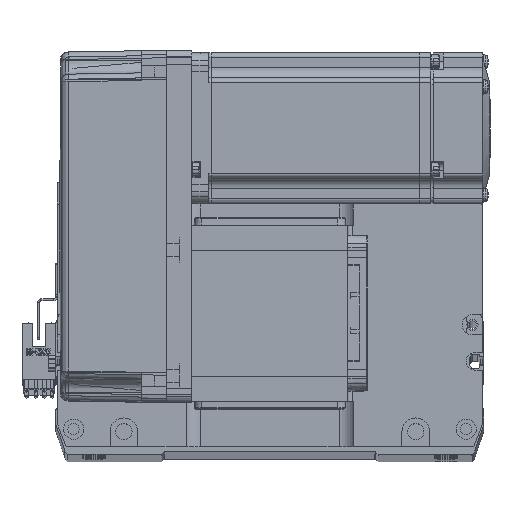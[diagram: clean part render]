
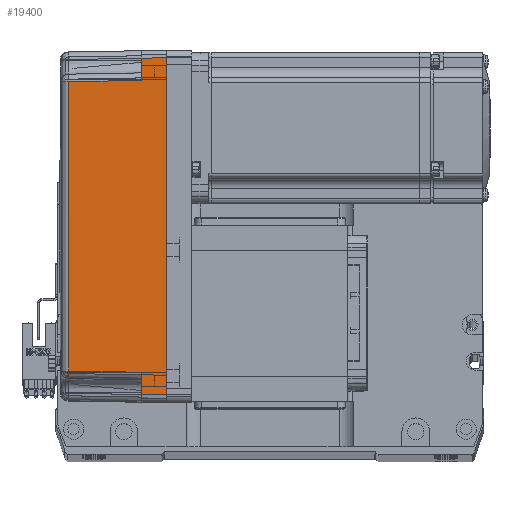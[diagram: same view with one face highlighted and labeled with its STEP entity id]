
A CAD part, top view. The second image highlights one B-rep face of the part: STEP entity #19400.
In plain terms, the highlighted planar face has unit normal (-0.018, 0, 1) as drawn and (0, 1, 0.017) by its records, which use the part's own axes.
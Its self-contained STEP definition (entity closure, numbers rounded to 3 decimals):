
#77 = EDGE_CURVE ( 'NONE', #22458, #1435, #16793, .T. ) ;
#745 = CARTESIAN_POINT ( 'NONE',  ( -67., 36., 0. ) ) ;
#1341 = EDGE_CURVE ( 'NONE', #22458, #40186, #46517, .T. ) ;
#1435 = VERTEX_POINT ( 'NONE', #37568 ) ;
#1808 = CARTESIAN_POINT ( 'NONE',  ( 70., 36., 0. ) ) ;
#3074 = CARTESIAN_POINT ( 'NONE',  ( 57.495, 35.32, 38.985 ) ) ;
#3577 = EDGE_CURVE ( 'NONE', #57103, #23189, #16994, .T. ) ;
#4730 = EDGE_CURVE ( 'NONE', #65228, #11934, #9665, .T. ) ;
#8078 = CARTESIAN_POINT ( 'NONE',  ( -57.495, 35.32, 38.985 ) ) ;
#9045 = ORIENTED_EDGE ( 'NONE', *, *, #1341, .T. ) ;
#9665 = LINE ( 'NONE', #58510, #61745 ) ;
#11934 = VERTEX_POINT ( 'NONE', #54667 ) ;
#15474 = CARTESIAN_POINT ( 'NONE',  ( 66.826, 35.825, 10. ) ) ;
#16501 = AXIS2_PLACEMENT_3D ( 'NONE', #1808, #52174, #47074 ) ;
#16793 = LINE ( 'NONE', #25938, #45937 ) ;
#16846 = EDGE_CURVE ( 'NONE', #40186, #65228, #17904, .T. ) ;
#16994 = LINE ( 'NONE', #3074, #24127 ) ;
#17904 = LINE ( 'NONE', #31814, #25015 ) ;
#18014 = ORIENTED_EDGE ( 'NONE', *, *, #77, .F. ) ;
#18330 = DIRECTION ( 'NONE',  ( 0.017, 0.017, -1. ) ) ;
#19400 = ADVANCED_FACE ( 'NONE', ( #52114 ), #57412, .T. ) ;
#21951 = CARTESIAN_POINT ( 'NONE',  ( -58., 35.825, 10. ) ) ;
#22190 = LINE ( 'NONE', #60288, #59226 ) ;
#22458 = VERTEX_POINT ( 'NONE', #42697 ) ;
#23153 = CARTESIAN_POINT ( 'NONE',  ( -19.165, 35.316, 39.181 ) ) ;
#23189 = VERTEX_POINT ( 'NONE', #46582 ) ;
#23386 = CARTESIAN_POINT ( 'NONE',  ( 57.495, 35.32, 38.985 ) ) ;
#24127 = VECTOR ( 'NONE', #18330, 1000. ) ;
#25015 = VECTOR ( 'NONE', #61767, 1000. ) ;
#25293 = DIRECTION ( 'NONE',  ( 1., 0., 0. ) ) ;
#25938 = CARTESIAN_POINT ( 'NONE',  ( 0., 36., 0. ) ) ;
#25980 = ORIENTED_EDGE ( 'NONE', *, *, #4730, .T. ) ;
#26111 = CARTESIAN_POINT ( 'NONE',  ( 67.001, 36.001, -0.052 ) ) ;
#26334 = EDGE_CURVE ( 'NONE', #11934, #57103, #41234, .T. ) ;
#28858 = CARTESIAN_POINT ( 'NONE',  ( 19.165, 35.316, 39.181 ) ) ;
#31398 = VECTOR ( 'NONE', #31601, 1000. ) ;
#31601 = DIRECTION ( 'NONE',  ( -0.017, -0.017, 1. ) ) ;
#31814 = CARTESIAN_POINT ( 'NONE',  ( 70., 35.825, 10. ) ) ;
#32987 = LINE ( 'NONE', #26111, #31398 ) ;
#33197 = DIRECTION ( 'NONE',  ( 0.017, -0.017, 1. ) ) ;
#34217 = EDGE_CURVE ( 'NONE', #1435, #51990, #32987, .T. ) ;
#37568 = CARTESIAN_POINT ( 'NONE',  ( 67., 36., 0. ) ) ;
#38587 = VECTOR ( 'NONE', #55907, 1000. ) ;
#40186 = VERTEX_POINT ( 'NONE', #50661 ) ;
#41234 = B_SPLINE_CURVE_WITH_KNOTS ( 'NONE', 3,
 ( #8078, #23153, #28858, #23386 ),
 .UNSPECIFIED., .F., .F.,
 ( 4, 4 ),
 ( 0., 1. ),
 .UNSPECIFIED. ) ;
#42697 = CARTESIAN_POINT ( 'NONE',  ( -67., 36., 0. ) ) ;
#45261 = ORIENTED_EDGE ( 'NONE', *, *, #34217, .F. ) ;
#45937 = VECTOR ( 'NONE', #25293, 1000. ) ;
#46517 = LINE ( 'NONE', #745, #38587 ) ;
#46582 = CARTESIAN_POINT ( 'NONE',  ( 58., 35.825, 10. ) ) ;
#47074 = DIRECTION ( 'NONE',  ( 0., -0.017, 1. ) ) ;
#47170 = ORIENTED_EDGE ( 'NONE', *, *, #64954, .T. ) ;
#50661 = CARTESIAN_POINT ( 'NONE',  ( -66.826, 35.825, 10. ) ) ;
#50675 = ORIENTED_EDGE ( 'NONE', *, *, #16846, .T. ) ;
#51990 = VERTEX_POINT ( 'NONE', #15474 ) ;
#52114 = FACE_OUTER_BOUND ( 'NONE', #52729, .T. ) ;
#52174 = DIRECTION ( 'NONE',  ( 0., 1., 0.017 ) ) ;
#52729 = EDGE_LOOP ( 'NONE', ( #9045, #50675, #25980, #61532, #54421, #47170, #45261, #18014 ) ) ;
#54421 = ORIENTED_EDGE ( 'NONE', *, *, #3577, .T. ) ;
#54667 = CARTESIAN_POINT ( 'NONE',  ( -57.495, 35.32, 38.985 ) ) ;
#55907 = DIRECTION ( 'NONE',  ( 0.017, -0.017, 1. ) ) ;
#57103 = VERTEX_POINT ( 'NONE', #62056 ) ;
#57412 = PLANE ( 'NONE',  #16501 ) ;
#58510 = CARTESIAN_POINT ( 'NONE',  ( -58., 35.825, 10. ) ) ;
#59226 = VECTOR ( 'NONE', #65183, 1000. ) ;
#60288 = CARTESIAN_POINT ( 'NONE',  ( 70., 35.825, 10. ) ) ;
#61532 = ORIENTED_EDGE ( 'NONE', *, *, #26334, .T. ) ;
#61745 = VECTOR ( 'NONE', #33197, 1000. ) ;
#61767 = DIRECTION ( 'NONE',  ( 1., 0., 0. ) ) ;
#62056 = CARTESIAN_POINT ( 'NONE',  ( 57.495, 35.32, 38.985 ) ) ;
#64954 = EDGE_CURVE ( 'NONE', #23189, #51990, #22190, .T. ) ;
#65183 = DIRECTION ( 'NONE',  ( 1., 0., 0. ) ) ;
#65228 = VERTEX_POINT ( 'NONE', #21951 ) ;
